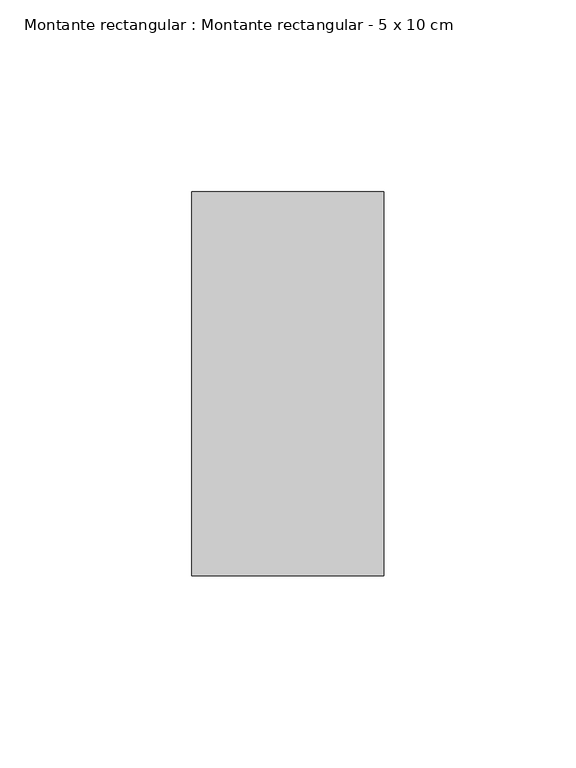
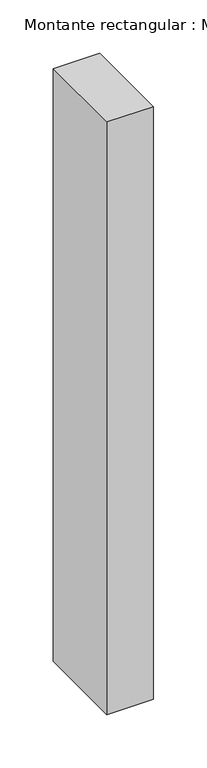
"""IFC4 building model written with IfcOpenShell, lengths in millimetres: member geometry, Montante rectangular : Montante rectangular - 5 x 10 cm."""

from ifc_helpers import new_model, si_unit, frame, origin, place, context, project, spatial, polyline, outline, extrude, source, transform, mapped, element, save


def montante_rectangular_montante_rectangular_5_x_10_cm_d56af32c(model_context):
    return source(origin(), model_context, "Body", "SweptSolid", [
        extrude(outline(polyline([(25.0, 50.0), (25.0, -50.0), (-25.0, -50.0), (-25.0, 50.0), (25.0, 50.0)])), frame((0.0, 0.0, -676.6666665), z_axis=(0.0, 0.0, 1.0), x_axis=(1.0, 0.0, 0.0)), (0.0, 0.0, 1.0), 676.6666665),
    ])


if __name__ == "__main__":
    model = new_model("IFC4")
    model_context = context("Model", 3, world=origin())
    ifc_project = project(units=[si_unit("LENGTHUNIT", "METRE", prefix="MILLI")], contexts=[model_context])
    site = spatial("IfcSite", under=ifc_project)
    building = spatial("IfcBuilding", under=site)
    placement = place(None, origin())
    montante_rectangular_montante_rectangular_5_x_10_cm_shape = montante_rectangular_montante_rectangular_5_x_10_cm_d56af32c(model_context)
    element("IfcMember", 1, ObjectType="Montante rectangular : Montante rectangular - 5 x 10 cm", at=placement, inside=building, context=model_context, shape_type="MappedRepresentation", body=[
        mapped(montante_rectangular_montante_rectangular_5_x_10_cm_shape, transform((0.0, 0.0, 0.0), x_axis=(1.0, 0.0, 0.0), y_axis=(0.0, 1.0, 0.0), z_axis=(0.0, 0.0, 1.0))),
    ])
    save(model, "model.ifc")
